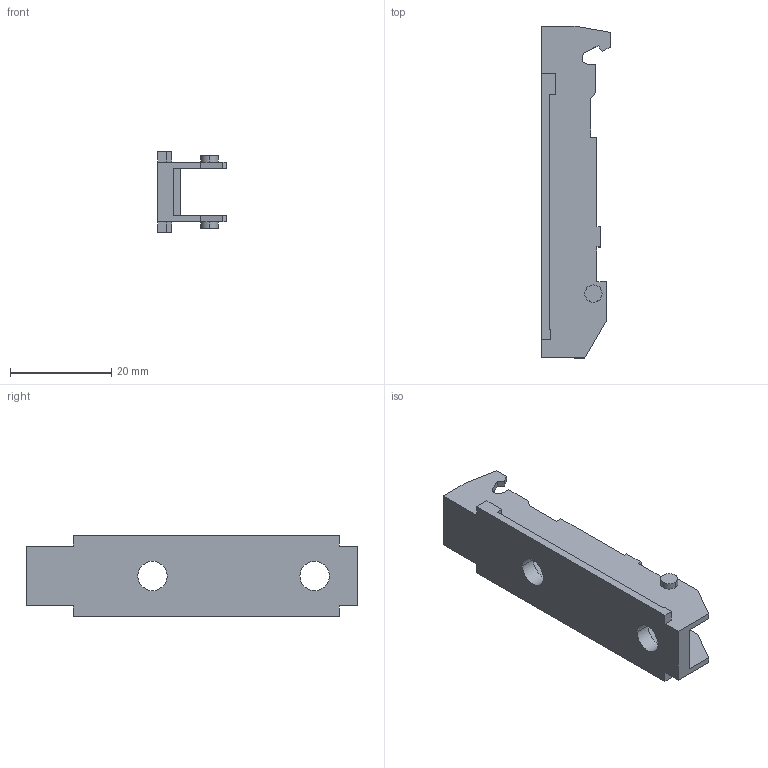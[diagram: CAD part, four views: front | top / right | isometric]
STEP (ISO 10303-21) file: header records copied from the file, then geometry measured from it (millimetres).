
FILE_DESCRIPTION (( 'STEP AP214' ), '1' );
FILE_NAME ('1D_Linearmontageplatte 20_32_Spax_Euro_H03.step', '2010-11-18T10:17:21', ( 'grass' ), ( '' ), 'SwSTEP 2.0', 'SolidWorks 2010', '' );
FILE_SCHEMA (( 'AUTOMOTIVE_DESIGN' ));
Length unit declared in the file: millimetre
Products named in the file (1): 1D_Linearmontageplatte 20_32_Spax_Euro_H03
Bounding box: 13.5 x 65.5 x 16 mm (x, y, z)
Volume: 4036.7 mm3; surface area: 4629.1 mm2
Topology: 1 solids, 1 shells, 76 faces, 216 edges, 144 vertices
Faces by surface type: plane 66, cylinder 10
Entity records: 2482 total; most frequent: CARTESIAN_POINT 437, ORIENTED_EDGE 432, DIRECTION 390, EDGE_CURVE 216, LINE 196, VECTOR 196, VERTEX_POINT 144, AXIS2_PLACEMENT_3D 97
